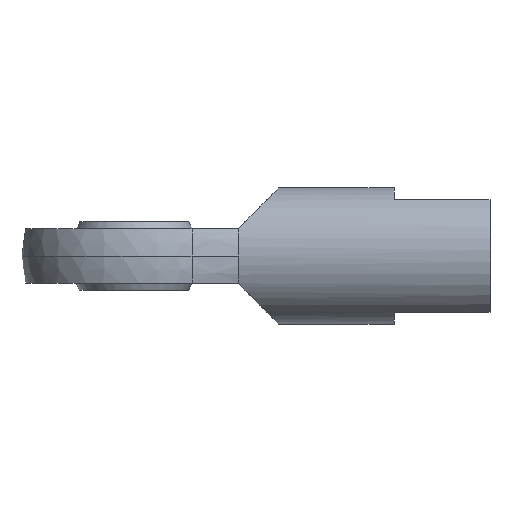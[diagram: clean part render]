
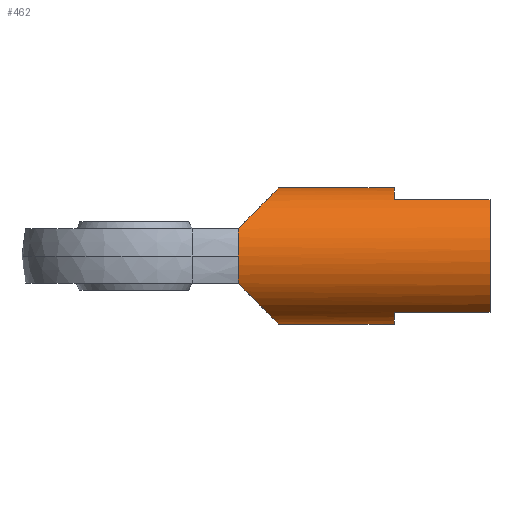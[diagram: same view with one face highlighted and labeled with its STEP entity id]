
A CAD part, front view. The second image highlights one B-rep face of the part: STEP entity #462.
In plain terms, the highlighted cylindrical face has radius 25 mm (diameter 50 mm), a partial arc.
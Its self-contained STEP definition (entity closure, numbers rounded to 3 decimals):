
#351 = EDGE_CURVE ( 'NONE', #352, #357, #924, .T. ) ;
#352 = VERTEX_POINT ( 'NONE', #951 ) ;
#357 = VERTEX_POINT ( 'NONE', #894 ) ;
#373 = EDGE_CURVE ( 'NONE', #1591, #1584, #903, .T. ) ;
#411 = EDGE_CURVE ( 'NONE', #456, #1592, #998, .T. ) ;
#424 = ORIENTED_EDGE ( 'NONE', *, *, #425, .F. ) ;
#425 = EDGE_CURVE ( 'NONE', #1591, #357, #1155, .T. ) ;
#427 = ORIENTED_EDGE ( 'NONE', *, *, #481, .F. ) ;
#437 = EDGE_LOOP ( 'NONE', ( #470, #471, #438, #440, #424, #466, #467, #480, #445, #427, #496 ) ) ;
#438 = ORIENTED_EDGE ( 'NONE', *, *, #439, .T. ) ;
#439 = EDGE_CURVE ( 'NONE', #472, #352, #1031, .T. ) ;
#440 = ORIENTED_EDGE ( 'NONE', *, *, #351, .T. ) ;
#443 = EDGE_CURVE ( 'NONE', #444, #475, #1109, .T. ) ;
#444 = VERTEX_POINT ( 'NONE', #1139 ) ;
#445 = ORIENTED_EDGE ( 'NONE', *, *, #446, .F. ) ;
#446 = EDGE_CURVE ( 'NONE', #460, #444, #1138, .T. ) ;
#456 = VERTEX_POINT ( 'NONE', #1118 ) ;
#460 = VERTEX_POINT ( 'NONE', #1054 ) ;
#461 = EDGE_CURVE ( 'NONE', #472, #456, #1100, .T. ) ;
#462 = ADVANCED_FACE ( 'NONE', ( #1102 ), #1101, .T. ) ;
#466 = ORIENTED_EDGE ( 'NONE', *, *, #373, .T. ) ;
#467 = ORIENTED_EDGE ( 'NONE', *, *, #477, .F. ) ;
#470 = ORIENTED_EDGE ( 'NONE', *, *, #411, .F. ) ;
#471 = ORIENTED_EDGE ( 'NONE', *, *, #461, .F. ) ;
#472 = VERTEX_POINT ( 'NONE', #1082 ) ;
#475 = VERTEX_POINT ( 'NONE', #1050 ) ;
#477 = EDGE_CURVE ( 'NONE', #475, #1584, #1043, .T. ) ;
#479 = VERTEX_POINT ( 'NONE', #1150 ) ;
#480 = ORIENTED_EDGE ( 'NONE', *, *, #443, .F. ) ;
#481 = EDGE_CURVE ( 'NONE', #479, #460, #1149, .T. ) ;
#492 = EDGE_CURVE ( 'NONE', #1592, #479, #1375, .T. ) ;
#496 = ORIENTED_EDGE ( 'NONE', *, *, #492, .F. ) ;
#842 = VECTOR ( 'NONE', #1053, 1000. ) ;
#894 = CARTESIAN_POINT ( 'NONE',  ( 38., -22.913, -10. ) ) ;
#900 = DIRECTION ( 'NONE',  ( 1., 0., 0. ) ) ;
#901 = VECTOR ( 'NONE', #900, 1000. ) ;
#902 = CARTESIAN_POINT ( 'NONE',  ( 38., 0., -25. ) ) ;
#903 = LINE ( 'NONE', #902, #901 ) ;
#920 = DIRECTION ( 'NONE',  ( 0., 1., 0. ) ) ;
#921 = DIRECTION ( 'NONE',  ( 1., 0., 0. ) ) ;
#922 = CARTESIAN_POINT ( 'NONE',  ( 38., 0., 0. ) ) ;
#923 = AXIS2_PLACEMENT_3D ( 'NONE', #922, #921, #920 ) ;
#924 = CIRCLE ( 'NONE', #923, 25. ) ;
#951 = CARTESIAN_POINT ( 'NONE',  ( 38., -25., 0. ) ) ;
#997 = CARTESIAN_POINT ( 'NONE',  ( 38., 0., 25. ) ) ;
#998 = LINE ( 'NONE', #997, #842 ) ;
#1024 = DIRECTION ( 'NONE',  ( 0., 1., 0. ) ) ;
#1025 = DIRECTION ( 'NONE',  ( 1., 0., 0. ) ) ;
#1026 = CARTESIAN_POINT ( 'NONE',  ( 38., 0., 0. ) ) ;
#1027 = AXIS2_PLACEMENT_3D ( 'NONE', #1026, #1025, #1024 ) ;
#1031 = CIRCLE ( 'NONE', #1027, 25. ) ;
#1040 = DIRECTION ( 'NONE',  ( 1., 0., 0. ) ) ;
#1041 = CARTESIAN_POINT ( 'NONE',  ( 95., 0., 0. ) ) ;
#1042 = AXIS2_PLACEMENT_3D ( 'NONE', #1041, #1040, #1151 ) ;
#1043 = CIRCLE ( 'NONE', #1042, 25. ) ;
#1050 = CARTESIAN_POINT ( 'NONE',  ( 95., -14.309, -20.5 ) ) ;
#1053 = DIRECTION ( 'NONE',  ( 1., 0., 0. ) ) ;
#1054 = CARTESIAN_POINT ( 'NONE',  ( 130., -14.309, 20.5 ) ) ;
#1067 = CARTESIAN_POINT ( 'NONE',  ( 38., -22.913, -10. ) ) ;
#1068 = CARTESIAN_POINT ( 'NONE',  ( 47.389, -18.815, -19.389 ) ) ;
#1069 = CARTESIAN_POINT ( 'NONE',  ( 53., -10.244, -25. ) ) ;
#1070 = CARTESIAN_POINT ( 'NONE',  ( 53., 0., -25. ) ) ;
#1082 = CARTESIAN_POINT ( 'NONE',  ( 38., -22.913, 10. ) ) ;
#1091 = DIRECTION ( 'NONE',  ( 0., 0., -1. ) ) ;
#1092 = DIRECTION ( 'NONE',  ( 1., 0., 0. ) ) ;
#1094 = CARTESIAN_POINT ( 'NONE',  ( 38., 0., 0. ) ) ;
#1095 = AXIS2_PLACEMENT_3D ( 'NONE', #1094, #1092, #1091 ) ;
#1096 = CARTESIAN_POINT ( 'NONE',  ( 53., 0., 25. ) ) ;
#1097 = CARTESIAN_POINT ( 'NONE',  ( 53., -10.244, 25. ) ) ;
#1098 = CARTESIAN_POINT ( 'NONE',  ( 47.389, -18.815, 19.389 ) ) ;
#1099 = CARTESIAN_POINT ( 'NONE',  ( 38., -22.913, 10. ) ) ;
#1100 =( BOUNDED_CURVE ( )  B_SPLINE_CURVE ( 3, ( #1099, #1098, #1097, #1096 ),
 .UNSPECIFIED., .F., .T. ) 
 B_SPLINE_CURVE_WITH_KNOTS ( ( 4, 4 ),
 ( 5.124, 6.283 ),
 .UNSPECIFIED. ) 
 CURVE ( )  GEOMETRIC_REPRESENTATION_ITEM ( )  RATIONAL_B_SPLINE_CURVE ( ( 1., 0.891, 0.891, 1. ) ) 
 REPRESENTATION_ITEM ( '' )  );
#1101 = CYLINDRICAL_SURFACE ( 'NONE', #1095, 25. ) ;
#1102 = FACE_OUTER_BOUND ( 'NONE', #437, .T. ) ;
#1109 = LINE ( 'NONE', #1142, #1141 ) ;
#1118 = CARTESIAN_POINT ( 'NONE',  ( 53., 0., 25. ) ) ;
#1134 = DIRECTION ( 'NONE',  ( 0., 0., -1. ) ) ;
#1135 = DIRECTION ( 'NONE',  ( 1., 0., 0. ) ) ;
#1136 = CARTESIAN_POINT ( 'NONE',  ( 130., 0., 0. ) ) ;
#1137 = AXIS2_PLACEMENT_3D ( 'NONE', #1136, #1135, #1134 ) ;
#1138 = CIRCLE ( 'NONE', #1137, 25. ) ;
#1139 = CARTESIAN_POINT ( 'NONE',  ( 130., -14.309, -20.5 ) ) ;
#1140 = DIRECTION ( 'NONE',  ( -1., 0., 0. ) ) ;
#1141 = VECTOR ( 'NONE', #1140, 1000. ) ;
#1142 = CARTESIAN_POINT ( 'NONE',  ( 38., -14.309, -20.5 ) ) ;
#1146 = DIRECTION ( 'NONE',  ( 1., 0., 0. ) ) ;
#1147 = VECTOR ( 'NONE', #1146, 1000. ) ;
#1148 = CARTESIAN_POINT ( 'NONE',  ( 38., -14.309, 20.5 ) ) ;
#1149 = LINE ( 'NONE', #1148, #1147 ) ;
#1150 = CARTESIAN_POINT ( 'NONE',  ( 95., -14.309, 20.5 ) ) ;
#1151 = DIRECTION ( 'NONE',  ( 0., 0., 1. ) ) ;
#1155 =( BOUNDED_CURVE ( )  B_SPLINE_CURVE ( 3, ( #1070, #1069, #1068, #1067 ),
 .UNSPECIFIED., .F., .T. ) 
 B_SPLINE_CURVE_WITH_KNOTS ( ( 4, 4 ),
 ( 0., 1.159 ),
 .UNSPECIFIED. ) 
 CURVE ( )  GEOMETRIC_REPRESENTATION_ITEM ( )  RATIONAL_B_SPLINE_CURVE ( ( 1., 0.891, 0.891, 1. ) ) 
 REPRESENTATION_ITEM ( '' )  );
#1307 = DIRECTION ( 'NONE',  ( 0., 0., 1. ) ) ;
#1308 = DIRECTION ( 'NONE',  ( 1., 0., 0. ) ) ;
#1309 = CARTESIAN_POINT ( 'NONE',  ( 95., 0., 0. ) ) ;
#1374 = AXIS2_PLACEMENT_3D ( 'NONE', #1309, #1308, #1307 ) ;
#1375 = CIRCLE ( 'NONE', #1374, 25. ) ;
#1400 = CARTESIAN_POINT ( 'NONE',  ( 95., 0., -25. ) ) ;
#1415 = CARTESIAN_POINT ( 'NONE',  ( 95., 0., 25. ) ) ;
#1421 = CARTESIAN_POINT ( 'NONE',  ( 53., 0., -25. ) ) ;
#1584 = VERTEX_POINT ( 'NONE', #1400 ) ;
#1591 = VERTEX_POINT ( 'NONE', #1421 ) ;
#1592 = VERTEX_POINT ( 'NONE', #1415 ) ;
